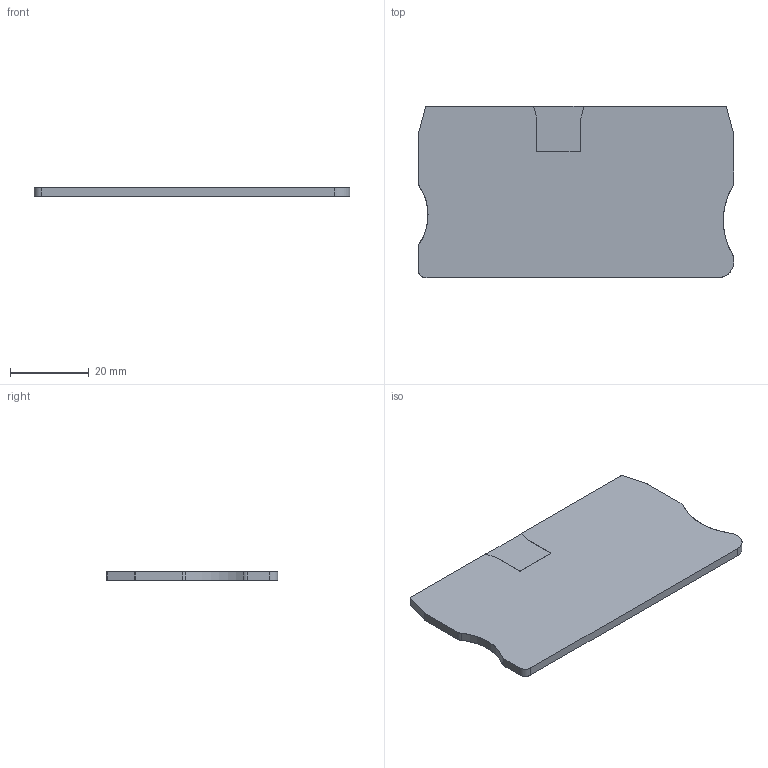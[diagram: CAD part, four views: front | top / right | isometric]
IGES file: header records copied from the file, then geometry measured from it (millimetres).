
Global section: file name: 3036657_d_st16_select.igs; native system: OneSpace Designer 3D IGES; preprocessor: 11.50A  18-Jul-2002; date: 20040311.142401; units: millimetre
Bounding box: 80.2 x 43.55 x 2.2 mm (x, y, z)
Surface area: 7381.9 mm2 (no closed solid volume)
Topology: 0 solids, 0 shells, 38 faces, 308 edges, 308 vertices
Faces by surface type: bspline 38
